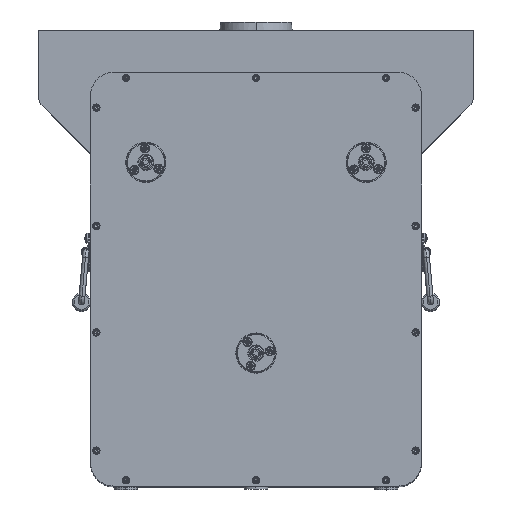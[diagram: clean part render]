
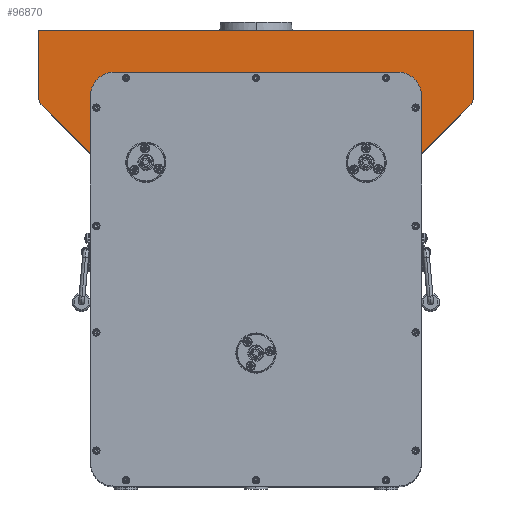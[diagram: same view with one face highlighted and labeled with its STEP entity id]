
A CAD part, top view. The second image highlights one B-rep face of the part: STEP entity #96870.
In plain terms, the highlighted planar face has unit normal (0, 0, 1).
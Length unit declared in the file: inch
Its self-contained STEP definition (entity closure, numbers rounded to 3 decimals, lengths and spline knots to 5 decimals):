
#125 = AXIS2_PLACEMENT_3D ( 'NONE', #115865, #36042, #129246 ) ;
#674 = EDGE_CURVE ( 'NONE', #168816, #79917, #130255, .T. ) ;
#1521 = DIRECTION ( 'NONE',  ( 0., 0., 1. ) ) ;
#2204 = VERTEX_POINT ( 'NONE', #123288 ) ;
#2368 = DIRECTION ( 'NONE',  ( 0., 0., -1. ) ) ;
#5024 = EDGE_CURVE ( 'NONE', #79917, #45627, #148230, .T. ) ;
#5735 = DIRECTION ( 'NONE',  ( 0., -1., 0. ) ) ;
#5808 = VERTEX_POINT ( 'NONE', #10821 ) ;
#8449 = CARTESIAN_POINT ( 'NONE',  ( 7., 5.85337, 11.4749 ) ) ;
#9905 = VECTOR ( 'NONE', #21897, 39.37008 ) ;
#10031 = EDGE_CURVE ( 'NONE', #5808, #2204, #147613, .T. ) ;
#10821 = CARTESIAN_POINT ( 'NONE',  ( 7., 8.28337, 11.4749 ) ) ;
#12373 = ORIENTED_EDGE ( 'NONE', *, *, #5024, .T. ) ;
#15716 = EDGE_CURVE ( 'NONE', #109529, #141624, #73199, .T. ) ;
#16913 = ORIENTED_EDGE ( 'NONE', *, *, #59214, .T. ) ;
#21639 = CARTESIAN_POINT ( 'NONE',  ( -7., 8.28337, 11.4749 ) ) ;
#21897 = DIRECTION ( 'NONE',  ( 0., -1., 0. ) ) ;
#22859 = ORIENTED_EDGE ( 'NONE', *, *, #77668, .T. ) ;
#25096 = PLANE ( 'NONE',  #84106 ) ;
#26490 = EDGE_CURVE ( 'NONE', #2204, #59159, #45124, .T. ) ;
#27505 = DIRECTION ( 'NONE',  ( 0., 1., 0. ) ) ;
#28099 = VECTOR ( 'NONE', #73781, 39.37008 ) ;
#35119 = CARTESIAN_POINT ( 'NONE',  ( -9.19, 11.04337, 11.4749 ) ) ;
#36042 = DIRECTION ( 'NONE',  ( 0., 0., 1. ) ) ;
#36123 = EDGE_LOOP ( 'NONE', ( #128659, #22859, #89006, #50009, #51507, #16913, #60173, #39300, #170595, #133665, #99434, #12373 ) ) ;
#37475 = DIRECTION ( 'NONE',  ( 0.707, 0.707, 0. ) ) ;
#39300 = ORIENTED_EDGE ( 'NONE', *, *, #10031, .T. ) ;
#40729 = CIRCLE ( 'NONE', #50733, 0.5 ) ;
#42186 = VECTOR ( 'NONE', #160513, 39.37008 ) ;
#45124 = LINE ( 'NONE', #170410, #170291 ) ;
#45627 = VERTEX_POINT ( 'NONE', #35119 ) ;
#46079 = EDGE_CURVE ( 'NONE', #169861, #65609, #144340, .T. ) ;
#47429 = AXIS2_PLACEMENT_3D ( 'NONE', #63588, #156850, #77038 ) ;
#50009 = ORIENTED_EDGE ( 'NONE', *, *, #162332, .T. ) ;
#50733 = AXIS2_PLACEMENT_3D ( 'NONE', #81508, #1521, #94877 ) ;
#51507 = ORIENTED_EDGE ( 'NONE', *, *, #15716, .T. ) ;
#51847 = DIRECTION ( 'NONE',  ( 1., 0., 0. ) ) ;
#51859 = EDGE_CURVE ( 'NONE', #59159, #168816, #40729, .T. ) ;
#54568 = DIRECTION ( 'NONE',  ( 1., 0., 0. ) ) ;
#55516 = CARTESIAN_POINT ( 'NONE',  ( -7., 5.85337, 11.4749 ) ) ;
#57786 = CARTESIAN_POINT ( 'NONE',  ( -9.19, 11.04337, 11.4749 ) ) ;
#59159 = VERTEX_POINT ( 'NONE', #140278 ) ;
#59214 = EDGE_CURVE ( 'NONE', #141624, #157502, #84641, .T. ) ;
#60081 = DIRECTION ( 'NONE',  ( -1., 0., 0. ) ) ;
#60173 = ORIENTED_EDGE ( 'NONE', *, *, #69015, .T. ) ;
#63588 = CARTESIAN_POINT ( 'NONE',  ( 6., 8.28337, 11.4749 ) ) ;
#65609 = VERTEX_POINT ( 'NONE', #55516 ) ;
#69015 = EDGE_CURVE ( 'NONE', #157502, #5808, #142312, .T. ) ;
#73164 = EDGE_CURVE ( 'NONE', #45627, #99472, #138100, .T. ) ;
#73199 = CIRCLE ( 'NONE', #73772, 1. ) ;
#73772 = AXIS2_PLACEMENT_3D ( 'NONE', #82336, #2368, #95707 ) ;
#73781 = DIRECTION ( 'NONE',  ( 0., 1., 0. ) ) ;
#77038 = DIRECTION ( 'NONE',  ( 1., 0., 0. ) ) ;
#77668 = EDGE_CURVE ( 'NONE', #99472, #169861, #168626, .T. ) ;
#79917 = VERTEX_POINT ( 'NONE', #100512 ) ;
#80673 = CARTESIAN_POINT ( 'NONE',  ( -7., 5.85337, 11.4749 ) ) ;
#81508 = CARTESIAN_POINT ( 'NONE',  ( 8.69, 8.25047, 11.4749 ) ) ;
#82336 = CARTESIAN_POINT ( 'NONE',  ( -6., 8.28337, 11.4749 ) ) ;
#84106 = AXIS2_PLACEMENT_3D ( 'NONE', #118321, #131725, #51847 ) ;
#84641 = LINE ( 'NONE', #134440, #88774 ) ;
#84857 = CARTESIAN_POINT ( 'NONE',  ( -6., 9.28337, 11.4749 ) ) ;
#85146 = CARTESIAN_POINT ( 'NONE',  ( -9.19, 8.04337, 11.4749 ) ) ;
#88774 = VECTOR ( 'NONE', #54568, 39.37008 ) ;
#89006 = ORIENTED_EDGE ( 'NONE', *, *, #46079, .T. ) ;
#93372 = CARTESIAN_POINT ( 'NONE',  ( -7., 8.28337, 11.4749 ) ) ;
#94877 = DIRECTION ( 'NONE',  ( 1., 0., 0. ) ) ;
#95707 = DIRECTION ( 'NONE',  ( 1., 0., 0. ) ) ;
#96870 = ADVANCED_FACE ( 'NONE', ( #138049 ), #25096, .T. ) ;
#99434 = ORIENTED_EDGE ( 'NONE', *, *, #674, .T. ) ;
#99472 = VERTEX_POINT ( 'NONE', #126389 ) ;
#100512 = CARTESIAN_POINT ( 'NONE',  ( 9.19, 11.04337, 11.4749 ) ) ;
#101041 = CARTESIAN_POINT ( 'NONE',  ( -9.04355, 7.89692, 11.4749 ) ) ;
#109529 = VERTEX_POINT ( 'NONE', #21639 ) ;
#112783 = VECTOR ( 'NONE', #60081, 39.37008 ) ;
#115865 = CARTESIAN_POINT ( 'NONE',  ( -8.69, 8.25047, 11.4749 ) ) ;
#118321 = CARTESIAN_POINT ( 'NONE',  ( 6., 8.28337, 11.4749 ) ) ;
#121086 = CARTESIAN_POINT ( 'NONE',  ( 6., 9.28337, 11.4749 ) ) ;
#123288 = CARTESIAN_POINT ( 'NONE',  ( 7., 5.85337, 11.4749 ) ) ;
#126264 = VECTOR ( 'NONE', #27505, 39.37008 ) ;
#126389 = CARTESIAN_POINT ( 'NONE',  ( -9.19, 8.25047, 11.4749 ) ) ;
#128659 = ORIENTED_EDGE ( 'NONE', *, *, #73164, .T. ) ;
#129246 = DIRECTION ( 'NONE',  ( 1., 0., 0. ) ) ;
#130255 = LINE ( 'NONE', #153593, #28099 ) ;
#131725 = DIRECTION ( 'NONE',  ( 0., 0., 1. ) ) ;
#132371 = CARTESIAN_POINT ( 'NONE',  ( 9.19, 8.25047, 11.4749 ) ) ;
#133665 = ORIENTED_EDGE ( 'NONE', *, *, #51859, .T. ) ;
#133915 = VECTOR ( 'NONE', #5735, 39.37008 ) ;
#134440 = CARTESIAN_POINT ( 'NONE',  ( 6., 9.28337, 11.4749 ) ) ;
#138049 = FACE_OUTER_BOUND ( 'NONE', #36123, .T. ) ;
#138100 = LINE ( 'NONE', #85146, #133915 ) ;
#140278 = CARTESIAN_POINT ( 'NONE',  ( 9.04355, 7.89692, 11.4749 ) ) ;
#141624 = VERTEX_POINT ( 'NONE', #84857 ) ;
#142312 = CIRCLE ( 'NONE', #47429, 1. ) ;
#144340 = LINE ( 'NONE', #80673, #42186 ) ;
#147613 = LINE ( 'NONE', #8449, #9905 ) ;
#148230 = LINE ( 'NONE', #57786, #112783 ) ;
#153593 = CARTESIAN_POINT ( 'NONE',  ( 9.19, 11.04337, 11.4749 ) ) ;
#156850 = DIRECTION ( 'NONE',  ( 0., 0., -1. ) ) ;
#157502 = VERTEX_POINT ( 'NONE', #121086 ) ;
#160513 = DIRECTION ( 'NONE',  ( 0.707, -0.707, 0. ) ) ;
#161769 = LINE ( 'NONE', #93372, #126264 ) ;
#162332 = EDGE_CURVE ( 'NONE', #65609, #109529, #161769, .T. ) ;
#168626 = CIRCLE ( 'NONE', #125, 0.5 ) ;
#168816 = VERTEX_POINT ( 'NONE', #132371 ) ;
#169861 = VERTEX_POINT ( 'NONE', #101041 ) ;
#170291 = VECTOR ( 'NONE', #37475, 39.37008 ) ;
#170410 = CARTESIAN_POINT ( 'NONE',  ( 7., 5.85337, 11.4749 ) ) ;
#170595 = ORIENTED_EDGE ( 'NONE', *, *, #26490, .T. ) ;
